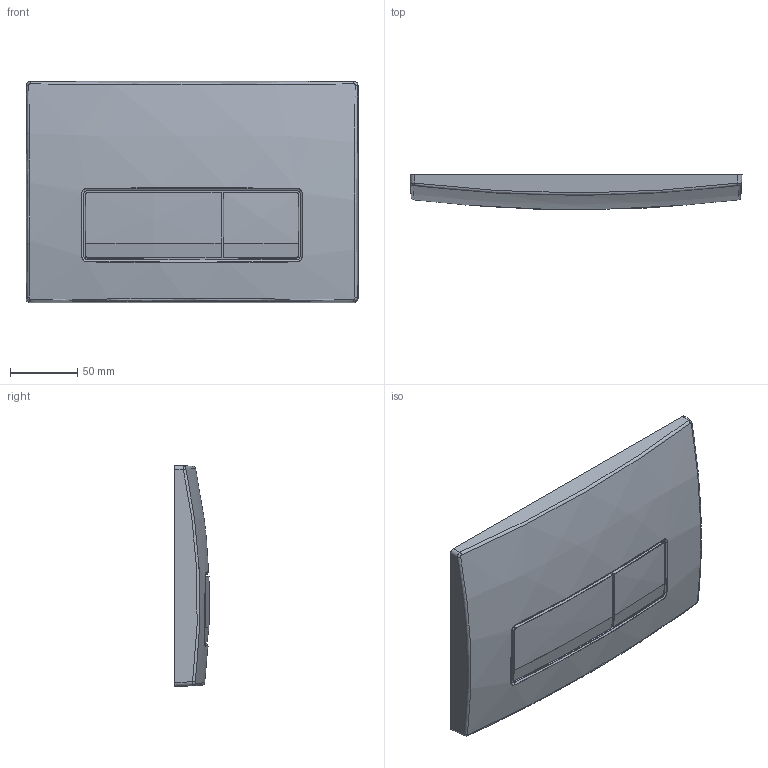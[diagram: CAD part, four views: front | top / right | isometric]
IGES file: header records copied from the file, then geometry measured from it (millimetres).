
Global section: file name: 115119; native system: Autodesk Inventor 2018; preprocessor: unknown; author: JANAN; date: 20211008.092517; units: millimetre
Bounding box: 246 x 25.75 x 164 mm (x, y, z)
Volume: 924094.9 mm3; surface area: 127937.4 mm2
Topology: 3 solids, 3 shells, 197 faces, 473 edges, 282 vertices
Faces by surface type: bspline 197
